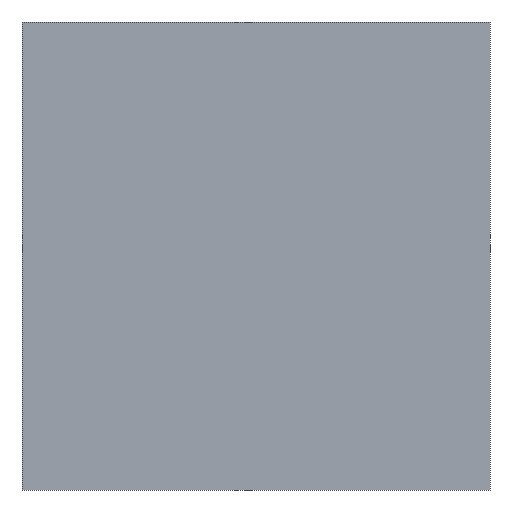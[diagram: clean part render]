
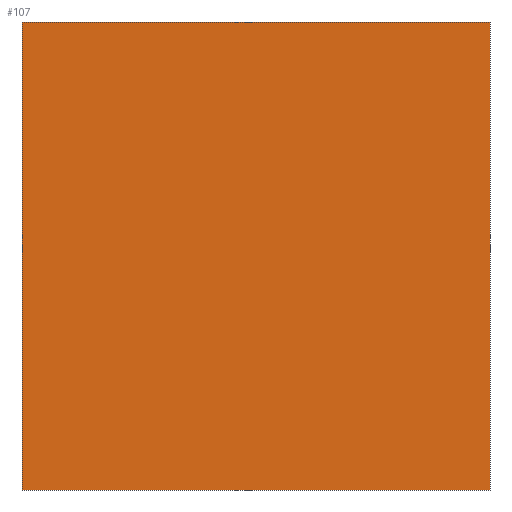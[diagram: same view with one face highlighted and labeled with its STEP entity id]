
A CAD part, front view. The second image highlights one B-rep face of the part: STEP entity #107.
In plain terms, the highlighted planar face has unit normal (0, -1, 0).
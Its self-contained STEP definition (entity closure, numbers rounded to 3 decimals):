
#21=FACE_OUTER_BOUND('',#27,.T.);
#27=EDGE_LOOP('',(#92,#93,#94,#95));
#30=LINE('',#162,#42);
#33=LINE('',#168,#45);
#36=LINE('',#174,#48);
#39=LINE('',#178,#51);
#42=VECTOR('',#134,10.);
#45=VECTOR('',#139,10.);
#48=VECTOR('',#144,10.);
#51=VECTOR('',#149,10.);
#54=VERTEX_POINT('',#159);
#55=VERTEX_POINT('',#161);
#57=VERTEX_POINT('',#167);
#59=VERTEX_POINT('',#173);
#62=EDGE_CURVE('',#55,#54,#30,.T.);
#65=EDGE_CURVE('',#57,#55,#33,.T.);
#68=EDGE_CURVE('',#59,#57,#36,.T.);
#71=EDGE_CURVE('',#54,#59,#39,.T.);
#92=ORIENTED_EDGE('',*,*,#71,.T.);
#93=ORIENTED_EDGE('',*,*,#68,.T.);
#94=ORIENTED_EDGE('',*,*,#65,.T.);
#95=ORIENTED_EDGE('',*,*,#62,.T.);
#101=PLANE('',#127);
#107=ADVANCED_FACE('',(#21),#101,.T.);
#127=AXIS2_PLACEMENT_3D('',#180,#152,#153);
#134=DIRECTION('',(0.,0.,1.));
#139=DIRECTION('',(1.,0.,0.));
#144=DIRECTION('',(0.,0.,-1.));
#149=DIRECTION('',(-1.,0.,0.));
#152=DIRECTION('center_axis',(0.,-1.,0.));
#153=DIRECTION('ref_axis',(0.,0.,-1.));
#159=CARTESIAN_POINT('',(300.,-100.,300.));
#161=CARTESIAN_POINT('',(300.,-100.,0.));
#162=CARTESIAN_POINT('',(300.,-100.,0.));
#167=CARTESIAN_POINT('',(0.,-100.,0.));
#168=CARTESIAN_POINT('',(0.,-100.,0.));
#173=CARTESIAN_POINT('',(0.,-100.,300.));
#174=CARTESIAN_POINT('',(0.,-100.,300.));
#178=CARTESIAN_POINT('',(300.,-100.,300.));
#180=CARTESIAN_POINT('Origin',(150.,-100.,150.));
